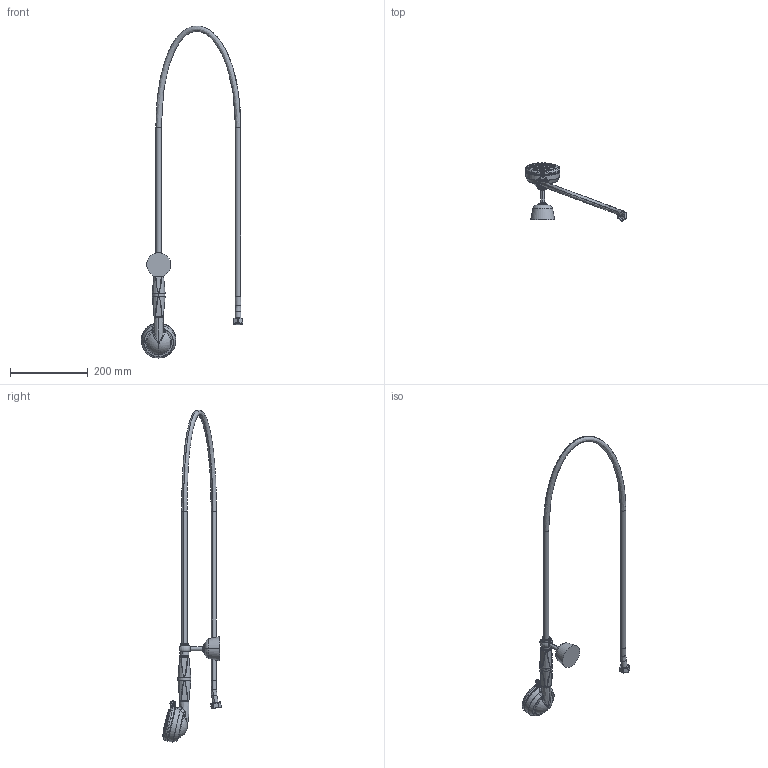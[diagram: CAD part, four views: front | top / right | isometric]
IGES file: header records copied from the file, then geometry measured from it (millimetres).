
Start section:  PTC IGES file: sku_s155.igs
Global section: file name: sku_s155.igs; native system: Pro/ENGINEER by Parametric Technology Corporation; preprocessor: 2006460; author: 9dutterb; organization: Unknown; date: 20071025.130332; units: inch
Bounding box: 260.15 x 150 x 853.09 mm (x, y, z)
Surface area: 132242.3 mm2 (no closed solid volume)
Topology: 0 solids, 0 shells, 377 faces, 1536 edges, 1532 vertices
Faces by surface type: bspline 216, revolution 161
